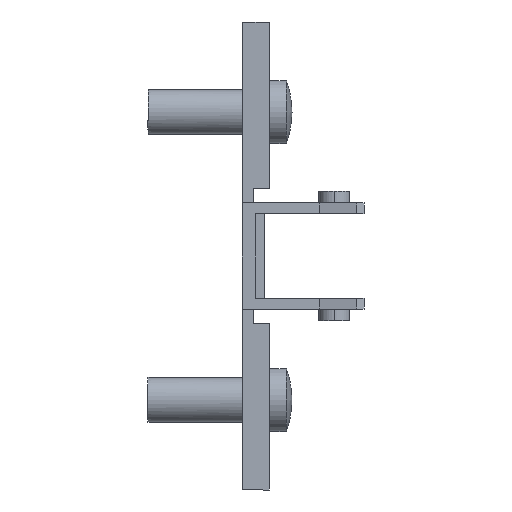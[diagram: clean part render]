
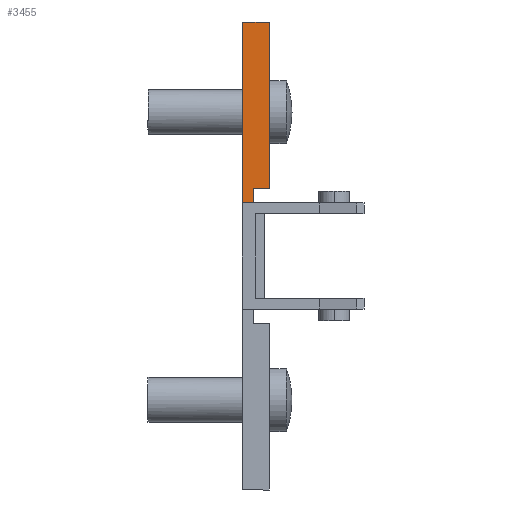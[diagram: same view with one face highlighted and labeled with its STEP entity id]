
A CAD part, front view. The second image highlights one B-rep face of the part: STEP entity #3455.
In plain terms, the highlighted planar face has unit normal (0, -1, 0).
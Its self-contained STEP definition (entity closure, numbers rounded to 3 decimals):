
#1 = VERTEX_POINT ( 'NONE', #1087 ) ;
#88 = VECTOR ( 'NONE', #2280, 1000. ) ;
#94 = LINE ( 'NONE', #2272, #88 ) ;
#171 = FACE_OUTER_BOUND ( 'NONE', #759, .T. ) ;
#241 = VERTEX_POINT ( 'NONE', #2497 ) ;
#759 = EDGE_LOOP ( 'NONE', ( #925, #926, #912, #910, #911, #913 ) ) ;
#910 = ORIENTED_EDGE ( 'NONE', *, *, #2763, .F. ) ;
#911 = ORIENTED_EDGE ( 'NONE', *, *, #2837, .F. ) ;
#912 = ORIENTED_EDGE ( 'NONE', *, *, #2709, .F. ) ;
#913 = ORIENTED_EDGE ( 'NONE', *, *, #2714, .F. ) ;
#925 = ORIENTED_EDGE ( 'NONE', *, *, #2597, .F. ) ;
#926 = ORIENTED_EDGE ( 'NONE', *, *, #2799, .F. ) ;
#1087 = CARTESIAN_POINT ( 'NONE',  ( 0., -9., 26. ) ) ;
#1133 = VERTEX_POINT ( 'NONE', #2352 ) ;
#1142 = VERTEX_POINT ( 'NONE', #2443 ) ;
#1173 = VERTEX_POINT ( 'NONE', #2387 ) ;
#1177 = VERTEX_POINT ( 'NONE', #2391 ) ;
#1433 = CARTESIAN_POINT ( 'NONE',  ( 1.2, -9., 7.5 ) ) ;
#1434 = DIRECTION ( 'NONE',  ( 0., 0., -1. ) ) ;
#1444 = CARTESIAN_POINT ( 'NONE',  ( 0., -9., 26. ) ) ;
#1445 = DIRECTION ( 'NONE',  ( 1., 0., 0. ) ) ;
#1549 = CARTESIAN_POINT ( 'NONE',  ( 3., -9., 7.5 ) ) ;
#1550 = DIRECTION ( 'NONE',  ( -1., 0., 0. ) ) ;
#1628 = CARTESIAN_POINT ( 'NONE',  ( 0., -9., 5.9 ) ) ;
#1632 = DIRECTION ( 'NONE',  ( -1., 0., 0. ) ) ;
#1715 = CARTESIAN_POINT ( 'NONE',  ( 3., -9., 26. ) ) ;
#1716 = DIRECTION ( 'NONE',  ( 0., 0., -1. ) ) ;
#2123 = PLANE ( 'NONE',  #3364 ) ;
#2126 = CARTESIAN_POINT ( 'NONE',  ( 0., -9., 5. ) ) ;
#2136 = DIRECTION ( 'NONE',  ( 0., 1., 0. ) ) ;
#2137 = DIRECTION ( 'NONE',  ( 0., 0., 1. ) ) ;
#2272 = CARTESIAN_POINT ( 'NONE',  ( 0., -9., 5. ) ) ;
#2280 = DIRECTION ( 'NONE',  ( 0., 0., 1. ) ) ;
#2352 = CARTESIAN_POINT ( 'NONE',  ( 3., -9., 7.5 ) ) ;
#2387 = CARTESIAN_POINT ( 'NONE',  ( 1.2, -9., 7.5 ) ) ;
#2391 = CARTESIAN_POINT ( 'NONE',  ( 1.2, -9., 5.9 ) ) ;
#2443 = CARTESIAN_POINT ( 'NONE',  ( 3., -9., 26. ) ) ;
#2497 = CARTESIAN_POINT ( 'NONE',  ( 0., -9., 5.9 ) ) ;
#2597 = EDGE_CURVE ( 'NONE', #241, #1, #94, .T. ) ;
#2709 = EDGE_CURVE ( 'NONE', #1173, #1177, #3492, .T. ) ;
#2714 = EDGE_CURVE ( 'NONE', #1, #1142, #3514, .T. ) ;
#2763 = EDGE_CURVE ( 'NONE', #1133, #1173, #2865, .T. ) ;
#2799 = EDGE_CURVE ( 'NONE', #1177, #241, #3084, .T. ) ;
#2837 = EDGE_CURVE ( 'NONE', #1142, #1133, #3019, .T. ) ;
#2863 = VECTOR ( 'NONE', #1550, 1000. ) ;
#2865 = LINE ( 'NONE', #1549, #2863 ) ;
#3017 = VECTOR ( 'NONE', #1716, 1000. ) ;
#3019 = LINE ( 'NONE', #1715, #3017 ) ;
#3084 = LINE ( 'NONE', #1628, #3093 ) ;
#3093 = VECTOR ( 'NONE', #1632, 1000. ) ;
#3364 = AXIS2_PLACEMENT_3D ( 'NONE', #2126, #2136, #2137 ) ;
#3455 = ADVANCED_FACE ( 'NONE', ( #171 ), #2123, .F. ) ;
#3492 = LINE ( 'NONE', #1433, #3522 ) ;
#3513 = VECTOR ( 'NONE', #1445, 1000. ) ;
#3514 = LINE ( 'NONE', #1444, #3513 ) ;
#3522 = VECTOR ( 'NONE', #1434, 1000. ) ;
